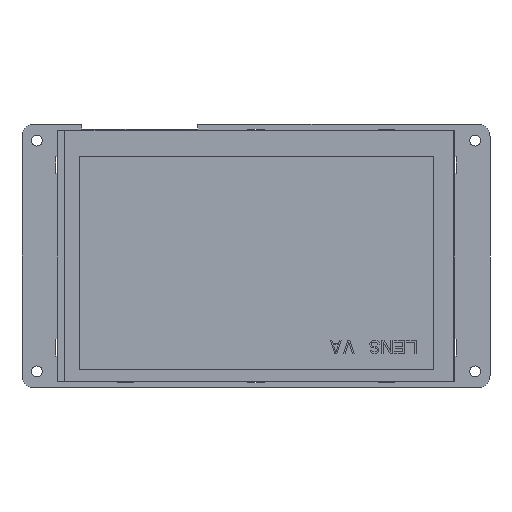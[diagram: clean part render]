
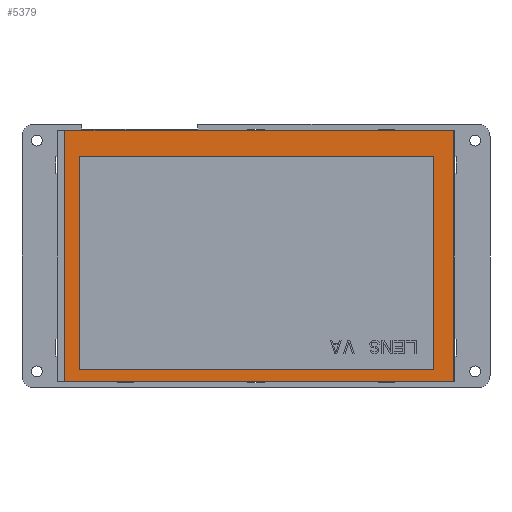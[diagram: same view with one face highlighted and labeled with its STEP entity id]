
A CAD part, front view. The second image highlights one B-rep face of the part: STEP entity #5379.
In plain terms, the highlighted planar face has unit normal (0, -1, 0) as drawn and (0, 1, 0) by its records, which use the part's own axes.
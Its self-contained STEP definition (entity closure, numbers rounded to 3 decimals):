
#3590=DIRECTION('',(0.,0.,1.));
#3591=VECTOR('',#3590,77.03);
#3592=CARTESIAN_POINT('',(-59.625,2.03,-38.515));
#3593=LINE('',#3592,#3591);
#3594=DIRECTION('',(-1.,0.,0.));
#3595=VECTOR('',#3594,119.25);
#3596=CARTESIAN_POINT('',(59.625,2.03,-38.515));
#3597=LINE('',#3596,#3595);
#3598=DIRECTION('',(0.,0.,-1.));
#3599=VECTOR('',#3598,77.03);
#3600=CARTESIAN_POINT('',(59.625,2.03,38.515));
#3601=LINE('',#3600,#3599);
#3602=DIRECTION('',(1.,0.,0.));
#3603=VECTOR('',#3602,119.25);
#3604=CARTESIAN_POINT('',(-59.625,2.03,38.515));
#3605=LINE('',#3604,#3603);
#3606=DIRECTION('',(0.,0.,1.));
#3607=VECTOR('',#3606,65.4);
#3608=CARTESIAN_POINT('',(-53.315,2.03,-34.905));
#3609=LINE('',#3608,#3607);
#3610=DIRECTION('',(1.,0.,0.));
#3611=VECTOR('',#3610,108.6);
#3612=CARTESIAN_POINT('',(-53.315,2.03,30.495));
#3613=LINE('',#3612,#3611);
#3614=DIRECTION('',(0.,0.,-1.));
#3615=VECTOR('',#3614,65.4);
#3616=CARTESIAN_POINT('',(55.285,2.03,30.495));
#3617=LINE('',#3616,#3615);
#3618=DIRECTION('',(-1.,0.,0.));
#3619=VECTOR('',#3618,108.6);
#3620=CARTESIAN_POINT('',(55.285,2.03,-34.905));
#3621=LINE('',#3620,#3619);
#4862=CARTESIAN_POINT('',(-59.625,2.03,-38.515));
#4863=CARTESIAN_POINT('',(-59.625,2.03,38.515));
#4864=VERTEX_POINT('',#4862);
#4865=VERTEX_POINT('',#4863);
#4866=CARTESIAN_POINT('',(59.625,2.03,38.515));
#4867=VERTEX_POINT('',#4866);
#4868=CARTESIAN_POINT('',(59.625,2.03,-38.515));
#4869=VERTEX_POINT('',#4868);
#5078=CARTESIAN_POINT('',(-53.315,2.03,-34.905));
#5079=CARTESIAN_POINT('',(-53.315,2.03,30.495));
#5080=VERTEX_POINT('',#5078);
#5081=VERTEX_POINT('',#5079);
#5082=CARTESIAN_POINT('',(55.285,2.03,30.495));
#5083=VERTEX_POINT('',#5082);
#5084=CARTESIAN_POINT('',(55.285,2.03,-34.905));
#5085=VERTEX_POINT('',#5084);
#5358=CARTESIAN_POINT('',(0.,2.03,0.));
#5359=DIRECTION('',(0.,1.,0.));
#5360=DIRECTION('',(1.,0.,0.));
#5361=AXIS2_PLACEMENT_3D('',#5358,#5359,#5360);
#5362=PLANE('',#5361);
#5363=ORIENTED_EDGE('',*,*,#5310,.F.);
#5364=ORIENTED_EDGE('',*,*,#5325,.F.);
#5365=ORIENTED_EDGE('',*,*,#5339,.F.);
#5366=ORIENTED_EDGE('',*,*,#5352,.F.);
#5367=EDGE_LOOP('',(#5363,#5364,#5365,#5366));
#5368=FACE_OUTER_BOUND('',#5367,.F.);
#5370=ORIENTED_EDGE('',*,*,#5369,.T.);
#5372=ORIENTED_EDGE('',*,*,#5371,.T.);
#5374=ORIENTED_EDGE('',*,*,#5373,.T.);
#5376=ORIENTED_EDGE('',*,*,#5375,.T.);
#5377=EDGE_LOOP('',(#5370,#5372,#5374,#5376));
#5378=FACE_BOUND('',#5377,.F.);
#5310=EDGE_CURVE('',#4864,#4865,#3593,.T.);
#5325=EDGE_CURVE('',#4869,#4864,#3597,.T.);
#5339=EDGE_CURVE('',#4867,#4869,#3601,.T.);
#5352=EDGE_CURVE('',#4865,#4867,#3605,.T.);
#5369=EDGE_CURVE('',#5080,#5081,#3609,.T.);
#5371=EDGE_CURVE('',#5081,#5083,#3613,.T.);
#5373=EDGE_CURVE('',#5083,#5085,#3617,.T.);
#5375=EDGE_CURVE('',#5085,#5080,#3621,.T.);
#5379=ADVANCED_FACE('',(#5368,#5378),#5362,.T.);
